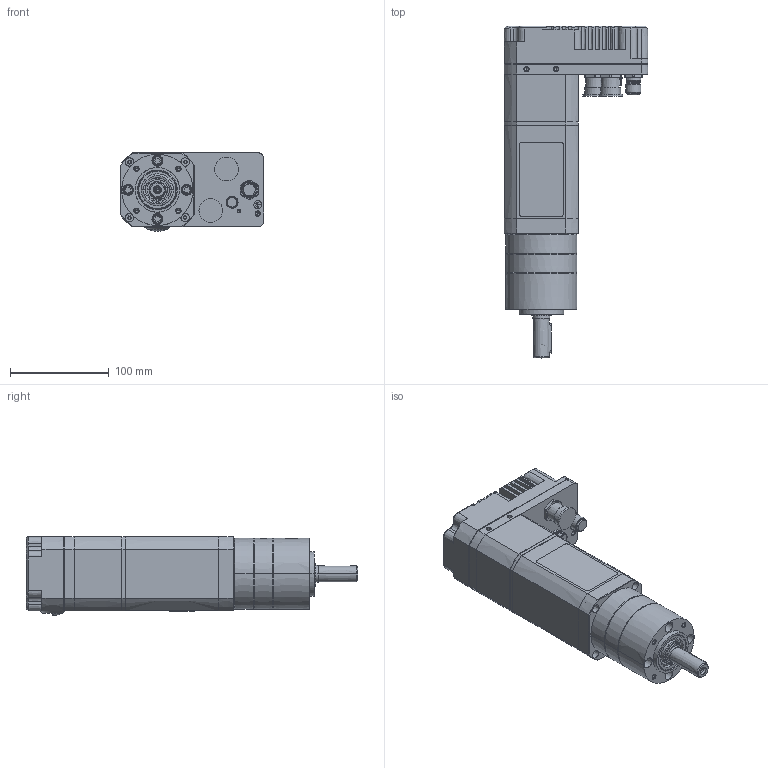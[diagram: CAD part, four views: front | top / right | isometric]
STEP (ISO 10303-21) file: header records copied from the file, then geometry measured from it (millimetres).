
FILE_DESCRIPTION((''),'2;1');
FILE_NAME('8036D1_2STAGES','2018-09-18T',('alecma1'),('CROUZET-AUTOMATISMES'),'CREO PARAMETRIC BY PTC INC, 2017170','CREO PARAMETRIC BY PTC INC, 2017170','');
FILE_SCHEMA(('AP203_CONFIGURATION_CONTROLLED_3D_DESIGN_OF_MECHANICAL_PARTS_AND_ASSEMBLIES_MIM_LF { 1 0 10303 403 2 1 2 }'));
Products named in the file (1): 8036D1_2STAGES
Bounding box: 145 x 335.4 x 79.7 mm (x, y, z)
Surface area: 154139.2 mm2 (no closed solid volume)
Topology: 0 solids, 0 shells, 768 faces, 4019 edges, 3955 vertices
Faces by surface type: bspline 719, torus 45, sphere 4
Entity records: 76180 total; most frequent: CARTESIAN_POINT 33740, DIRECTION 6162, TRIMMED_CURVE 5165, VECTOR 4291, LINE 4291, DEFINITIONAL_REPRESENTATION 3912, PCURVE 3912, COMPOSITE_CURVE_SEGMENT 3912
